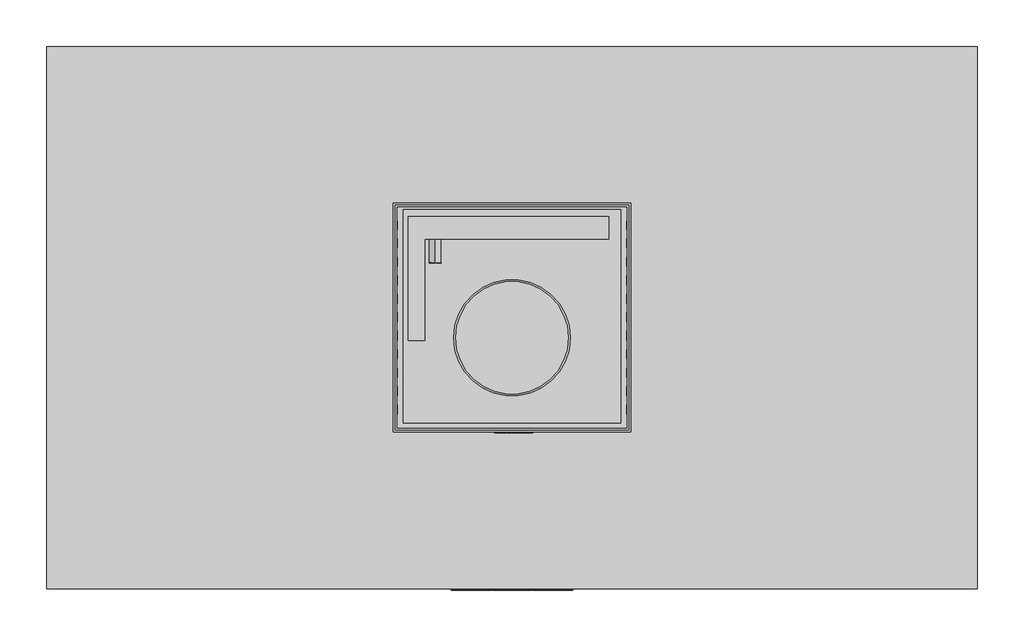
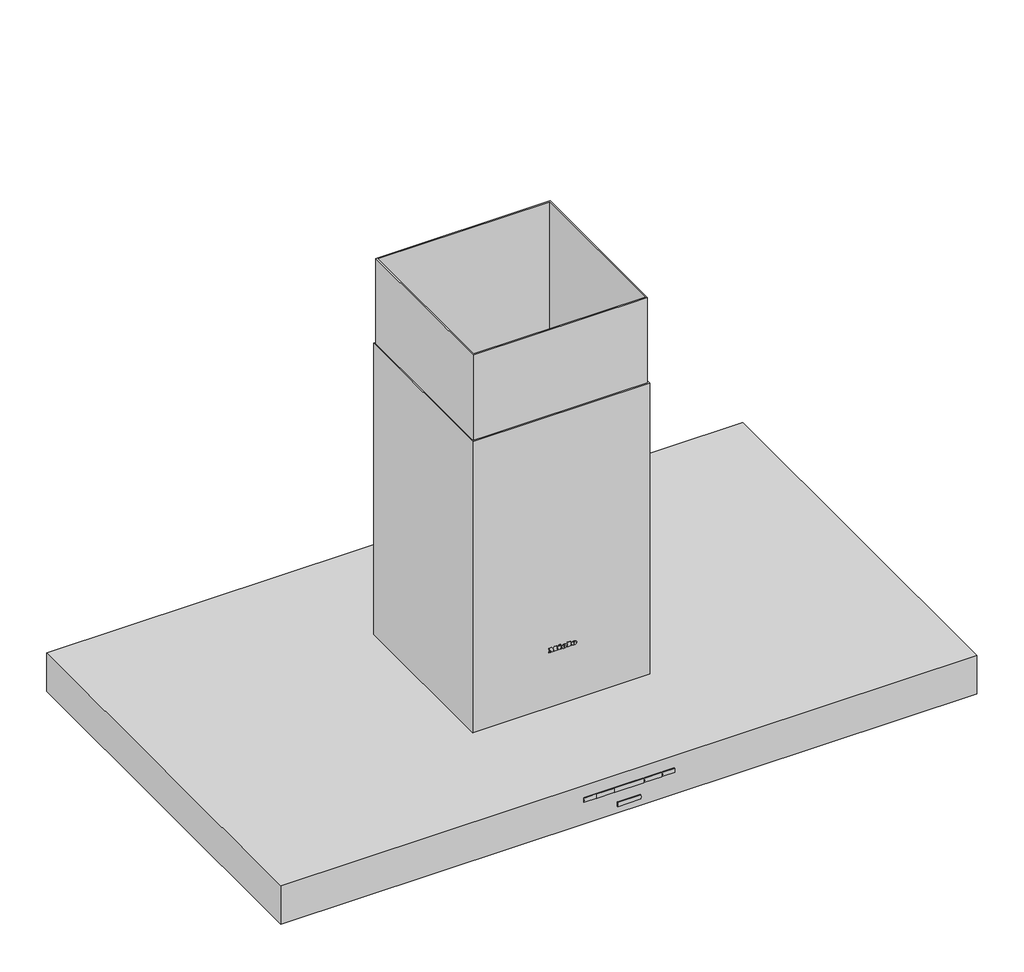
# Not in any storey: 1 proxy.
"""IFC4 building model written with IfcOpenShell, lengths in millimetres."""

from ifc_helpers import new_model, si_unit, origin, place, context, project, spatial, transform, mapped, element, save
from components import specialty_equipment_4de7fc39

model = new_model("IFC4")

# Units and contexts
model_context = context("Model", 3, world=origin())
ifc_project = project(units=[si_unit("LENGTHUNIT", "METRE", prefix="MILLI")], contexts=[model_context])

# Site, building
site = spatial("IfcSite", under=ifc_project)
building = spatial("IfcBuilding", under=site)

# Proxy
placement = place(None, origin())
specialty_equipment_shape = specialty_equipment_4de7fc39(model_context)
element("IfcBuildingElementProxy", 1, Name="10877250_USA_DA4248VD_EDST : 28424855_USA_10877250_DA4248VD_EDST", ObjectType="10877250_USA_DA4248VD_EDST : 28424855_USA_10877250_DA4248VD_EDST", at=placement, inside=building, context=model_context, shape_type="MappedRepresentation", body=[
    mapped(specialty_equipment_shape, transform((0.0, 0.0, 0.0), x_axis=(1.0, 0.0, 0.0), y_axis=(0.0, 1.0, 0.0), z_axis=(0.0, 0.0, 1.0))),
])

save(model, "model.ifc")
